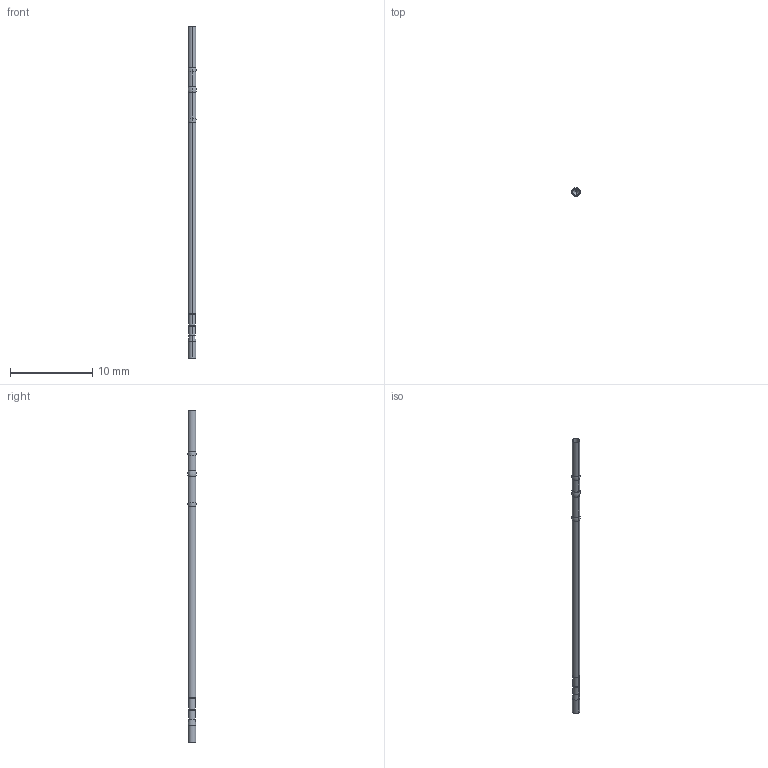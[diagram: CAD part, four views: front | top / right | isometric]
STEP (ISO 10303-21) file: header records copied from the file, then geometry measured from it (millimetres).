
FILE_DESCRIPTION (( 'STEP AP214' ), '1' );
FILE_NAME ('LRC1P.STEP', '2023-05-16T09:51:00', ( '' ), ( '' ), 'SwSTEP 2.0', 'SolidWorks 2022', '' );
FILE_SCHEMA (( 'AUTOMOTIVE_DESIGN' ));
Length unit declared in the file: millimetre
Products named in the file (1): LRC1P
Bounding box: 1.05 x 1.05 x 40.41 mm (x, y, z)
Volume: 9 mm3; surface area: 215.6 mm2
Topology: 1 solids, 1 shells, 41 faces, 84 edges, 44 vertices
Faces by surface type: cylinder 20, cone 10, torus 8, plane 3
Entity records: 1074 total; most frequent: DIRECTION 214, CARTESIAN_POINT 166, ORIENTED_EDGE 160, AXIS2_PLACEMENT_3D 92, EDGE_CURVE 80, CIRCLE 50, EDGE_LOOP 44, VERTEX_POINT 44
